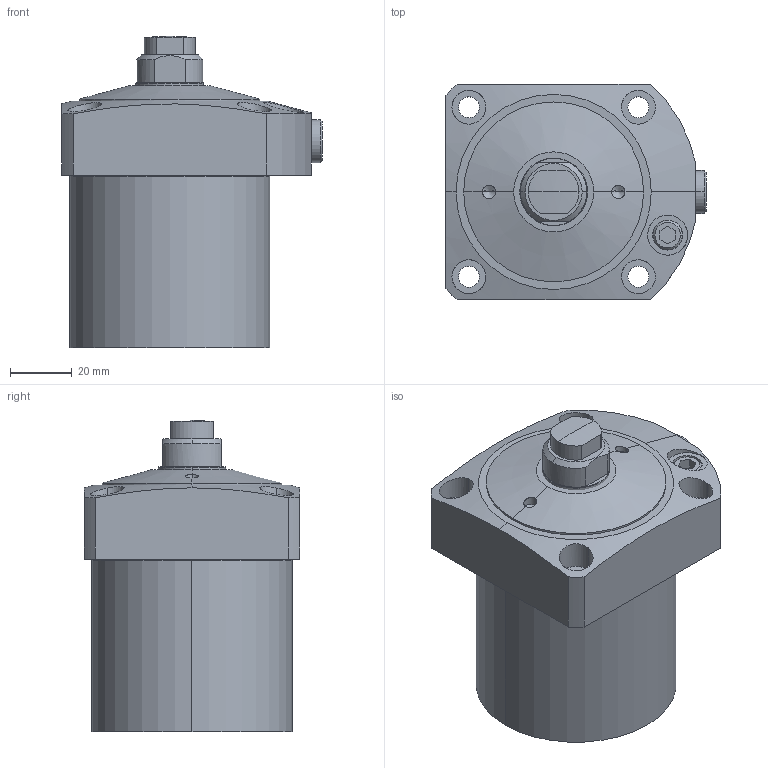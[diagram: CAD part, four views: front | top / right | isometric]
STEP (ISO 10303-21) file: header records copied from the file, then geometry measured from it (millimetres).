
FILE_DESCRIPTION(/* description */ (''),/* implementation_level */ '2;1');
FILE_NAME(/* name */ 'KFSC65.stp',/* time_stamp */ '2022-11-16T16:37:08+08:00',/* author */ (''),/* organization */ (''),/* preprocessor_version */ 'ST-DEVELOPER v16.7',/* originating_system */ 'SIEMENS PLM Software NX 12.0',/* authorisation */ '');
FILE_SCHEMA (('AP203_CONFIGURATION_CONTROLLED_3D_DESIGN_OF_MECHANICAL_PARTS_AND_ASSEMBLIES_MIM_LF { 1 0 10303 403 2 1 2}'));
Length unit declared in the file: millimetre
Products named in the file (5): KFSC65-02; KFSC65-03; KFSC65-04; KFSC65-01; LC0652-Cx_step
Assembly tree (4 placements, depth 2):
  LC0652-Cx_step
    KFSC65-01
    KFSC65-04
    KFSC65-03
    KFSC65-02
Bounding box: 84.5 x 70 x 101 mm (x, y, z)
Volume: 323128.9 mm3; surface area: 34599.4 mm2
Topology: 4 solids, 4 shells, 117 faces, 264 edges, 167 vertices
Faces by surface type: cylinder 50, plane 43, cone 20, torus 2, sphere 2
Entity records: 4032 total; most frequent: CARTESIAN_POINT 791, DIRECTION 596, ORIENTED_EDGE 520, EDGE_CURVE 260, AXIS2_PLACEMENT_3D 236, VERTEX_POINT 167, EDGE_LOOP 141, LINE 124
